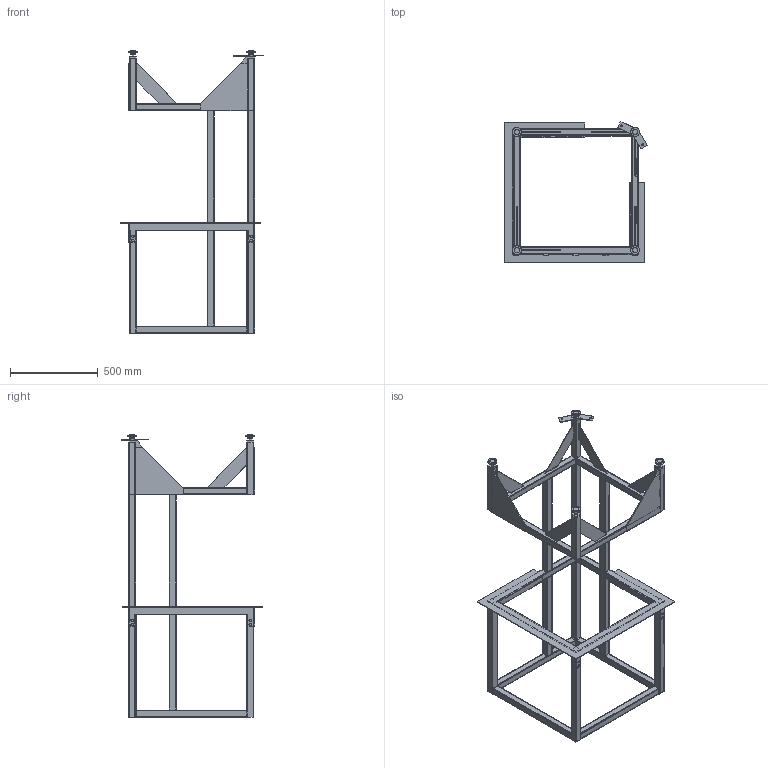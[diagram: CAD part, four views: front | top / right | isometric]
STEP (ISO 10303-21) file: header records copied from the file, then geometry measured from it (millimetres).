
FILE_DESCRIPTION(/* description */ (''),/* implementation_level */ '2;1');
FILE_NAME(/* name */ 'C:\ADSK_DM_WS\CAD_3D\03 Geraete\Cubeo\Zeichnungen\2020-00393.stp',/* time_stamp */ '2021-08-18T13:46:18+02:00',/* author */ ('CPI'),/* organization */ (''),/* preprocessor_version */ 'ST-DEVELOPER v18.1',/* originating_system */ 'Autodesk Inventor 2022',/* authorisation */ '');
FILE_SCHEMA (('AUTOMOTIVE_DESIGN { 1 0 10303 214 3 1 1 }'));
Products named in the file (1): 2020-00393
Bounding box: 808.79 x 800.61 x 1606 mm (x, y, z)
Volume: 6722802.5 mm3; surface area: 5007443 mm2
Topology: 2 solids, 14 shells, 2113 faces, 5180 edges, 2995 vertices
Faces by surface type: plane 1210, cylinder 717, bspline 106, cone 80
Full cylindrical faces by diameter (mm): 10 x2, 16 x8, 20 x2, 30 x4
Entity records: 75449 total; most frequent: CARTESIAN_POINT 24547, ORIENTED_EDGE 10356, DIRECTION 9918, EDGE_CURVE 5178, AXIS2_PLACEMENT_3D 3346, LINE 3226, VECTOR 3226, VERTEX_POINT 2995
